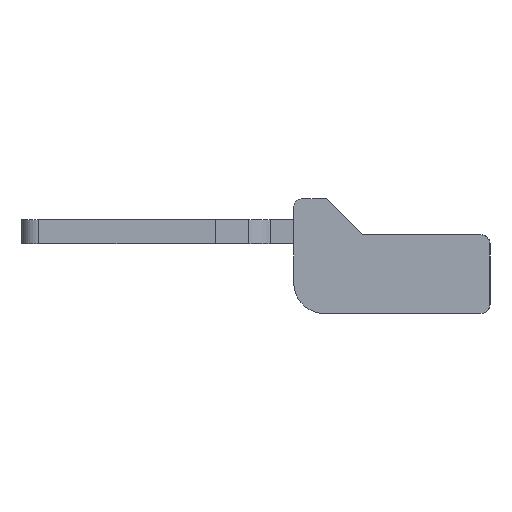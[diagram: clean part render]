
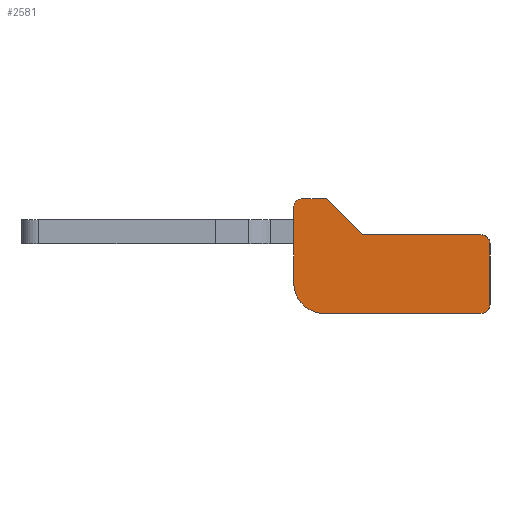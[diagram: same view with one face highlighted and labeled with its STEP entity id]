
A CAD part, left-side view. The second image highlights one B-rep face of the part: STEP entity #2581.
In plain terms, the highlighted planar face has unit normal (-1, 0, 0).
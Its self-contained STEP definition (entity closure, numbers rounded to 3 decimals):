
#2016=FACE_OUTER_BOUND('',#3166,.T.);
#2414=CIRCLE('',#7976,0.3);
#2415=CIRCLE('',#7977,1.);
#2416=CIRCLE('',#7978,0.3);
#2417=CIRCLE('',#7979,0.3);
#2581=ADVANCED_FACE('',(#2016),#2884,.F.);
#2884=PLANE('',#7980);
#3166=EDGE_LOOP('',(#3723,#3724,#3725,#3726,#3727,#3728,#3729,#3730,#3731,
#3732,#3733));
#3723=ORIENTED_EDGE('',*,*,#5928,.T.);
#3724=ORIENTED_EDGE('',*,*,#5998,.T.);
#3725=ORIENTED_EDGE('',*,*,#5999,.T.);
#3726=ORIENTED_EDGE('',*,*,#6000,.T.);
#3727=ORIENTED_EDGE('',*,*,#5770,.T.);
#3728=ORIENTED_EDGE('',*,*,#6001,.T.);
#3729=ORIENTED_EDGE('',*,*,#5932,.F.);
#3730=ORIENTED_EDGE('',*,*,#5940,.F.);
#3731=ORIENTED_EDGE('',*,*,#6002,.T.);
#3732=ORIENTED_EDGE('',*,*,#6003,.T.);
#3733=ORIENTED_EDGE('',*,*,#6004,.T.);
#5180=VERTEX_POINT('',#10131);
#5181=VERTEX_POINT('',#10132);
#5332=VERTEX_POINT('',#10456);
#5333=VERTEX_POINT('',#10458);
#5336=VERTEX_POINT('',#10466);
#5337=VERTEX_POINT('',#10467);
#5342=VERTEX_POINT('',#10479);
#5382=VERTEX_POINT('',#10588);
#5383=VERTEX_POINT('',#10590);
#5384=VERTEX_POINT('',#10594);
#5385=VERTEX_POINT('',#10596);
#5770=EDGE_CURVE('',#5180,#5181,#6628,.T.);
#5928=EDGE_CURVE('',#5333,#5332,#6755,.T.);
#5932=EDGE_CURVE('',#5336,#5337,#6758,.T.);
#5940=EDGE_CURVE('',#5342,#5336,#6766,.T.);
#5998=EDGE_CURVE('',#5332,#5382,#6820,.T.);
#5999=EDGE_CURVE('',#5382,#5383,#6821,.T.);
#6000=EDGE_CURVE('',#5383,#5180,#2414,.T.);
#6001=EDGE_CURVE('',#5181,#5337,#2415,.T.);
#6002=EDGE_CURVE('',#5342,#5384,#2416,.T.);
#6003=EDGE_CURVE('',#5384,#5385,#6822,.T.);
#6004=EDGE_CURVE('',#5385,#5333,#2417,.T.);
#6628=LINE('',#10130,#7270);
#6755=LINE('',#10457,#7397);
#6758=LINE('',#10465,#7400);
#6766=LINE('',#10480,#7408);
#6820=LINE('',#10587,#7462);
#6821=LINE('',#10589,#7463);
#6822=LINE('',#10595,#7464);
#7270=VECTOR('',#8439,1.);
#7397=VECTOR('',#8660,1.);
#7400=VECTOR('',#8667,1.);
#7408=VECTOR('',#8675,1.);
#7462=VECTOR('',#8757,1.);
#7463=VECTOR('',#8758,1.);
#7464=VECTOR('',#8765,1.);
#7976=AXIS2_PLACEMENT_3D('',#10591,#8759,#8760);
#7977=AXIS2_PLACEMENT_3D('',#10592,#8761,#8762);
#7978=AXIS2_PLACEMENT_3D('',#10593,#8763,#8764);
#7979=AXIS2_PLACEMENT_3D('',#10597,#8766,#8767);
#7980=AXIS2_PLACEMENT_3D('',#10598,#8768,#8769);
#8439=DIRECTION('',(0.,0.,-1.));
#8660=DIRECTION('',(0.,1.,0.));
#8667=DIRECTION('',(0.,1.,0.));
#8675=DIRECTION('',(0.,1.,0.));
#8757=DIRECTION('',(0.,0.707,0.707));
#8758=DIRECTION('',(0.,1.,0.));
#8759=DIRECTION('',(-1.,0.,0.));
#8760=DIRECTION('',(0.,0.,-1.));
#8761=DIRECTION('',(-1.,0.,0.));
#8762=DIRECTION('',(0.,0.,-1.));
#8763=DIRECTION('',(-1.,0.,0.));
#8764=DIRECTION('',(0.,0.,-1.));
#8765=DIRECTION('',(0.,0.,1.));
#8766=DIRECTION('',(-1.,0.,0.));
#8767=DIRECTION('',(0.,0.,-1.));
#8768=DIRECTION('',(1.,0.,0.));
#8769=DIRECTION('',(0.,0.,-1.));
#10130=CARTESIAN_POINT('',(-1.45,56.9,0.1));
#10131=CARTESIAN_POINT('',(-1.45,56.9,1.1));
#10132=CARTESIAN_POINT('',(-1.45,56.9,-1.4));
#10456=CARTESIAN_POINT('',(-1.45,54.62,0.2));
#10457=CARTESIAN_POINT('',(-1.45,51.6,0.2));
#10458=CARTESIAN_POINT('',(-1.45,50.7,0.2));
#10465=CARTESIAN_POINT('',(-1.45,51.6,-2.4));
#10466=CARTESIAN_POINT('',(-1.45,54.295,-2.4));
#10467=CARTESIAN_POINT('',(-1.45,55.9,-2.4));
#10479=CARTESIAN_POINT('',(-1.45,50.7,-2.4));
#10480=CARTESIAN_POINT('',(-1.45,51.6,-2.4));
#10587=CARTESIAN_POINT('',(-1.45,55.41,0.99));
#10588=CARTESIAN_POINT('',(-1.45,55.82,1.4));
#10589=CARTESIAN_POINT('',(-1.45,61.2,1.4));
#10590=CARTESIAN_POINT('',(-1.45,56.6,1.4));
#10591=CARTESIAN_POINT('',(-1.45,56.6,1.1));
#10592=CARTESIAN_POINT('',(-1.45,55.9,-1.4));
#10593=CARTESIAN_POINT('',(-1.45,50.7,-2.1));
#10594=CARTESIAN_POINT('',(-1.45,50.4,-2.1));
#10595=CARTESIAN_POINT('',(-1.45,50.4,-2.5));
#10596=CARTESIAN_POINT('',(-1.45,50.4,-0.1));
#10597=CARTESIAN_POINT('',(-1.45,50.7,-0.1));
#10598=CARTESIAN_POINT('',(-1.45,51.6,-2.5));
